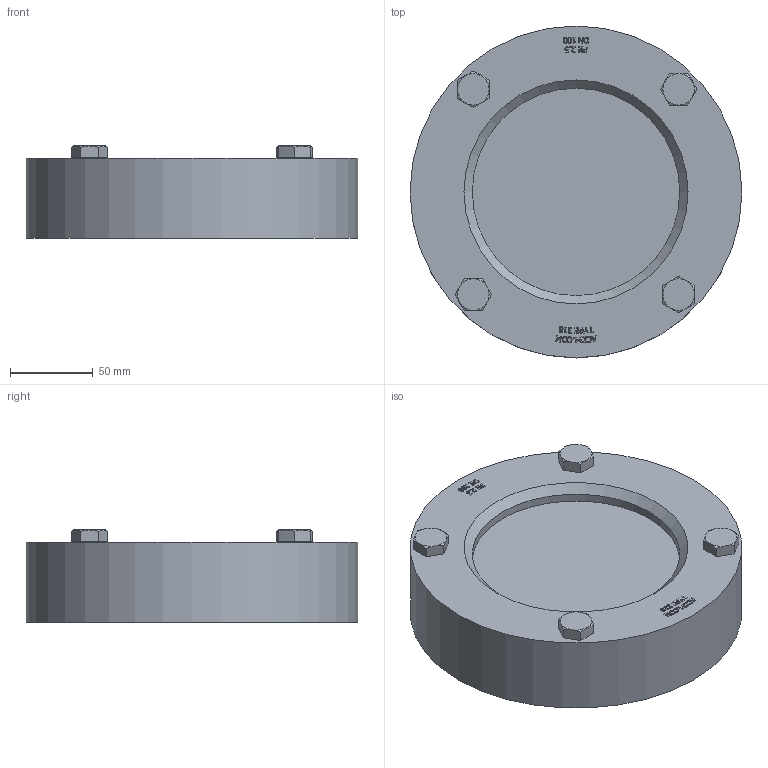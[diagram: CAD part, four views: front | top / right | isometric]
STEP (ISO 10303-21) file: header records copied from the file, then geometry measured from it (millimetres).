
FILE_DESCRIPTION(/* description */ (''),/* implementation_level */ '2;1');
FILE_NAME(/* name */ 'W:\Konstruktion_ACI\318\_STEP\ACI-318-100.stp',/* time_stamp */ '2022-03-02T18:06:02+01:00',/* author */ ('Travnicek'),/* organization */ (''),/* preprocessor_version */ 'ST-DEVELOPER v16.1',/* originating_system */ 'Autodesk Inventor 2016',/* authorisation */ '');
FILE_SCHEMA (('AUTOMOTIVE_DESIGN { 1 0 10303 214 3 1 1 }'));
Length unit declared in the file: centimetre
Products named in the file (1): ACI-318-100.stp
Bounding box: 200 x 200 x 55.5 mm (x, y, z)
Volume: 1139522 mm3; surface area: 103867 mm2
Topology: 1 solids, 1 shells, 460 faces, 1211 edges, 799 vertices
Faces by surface type: plane 258, bspline 169, cone 26, cylinder 7
Full cylindrical faces by diameter (mm): 17.2 x4, 125 x2, 200 x1
Entity records: 15310 total; most frequent: CARTESIAN_POINT 4753, ORIENTED_EDGE 2402, DIRECTION 1439, EDGE_CURVE 1201, VERTEX_POINT 798, LINE 775, VECTOR 775, EDGE_LOOP 515
